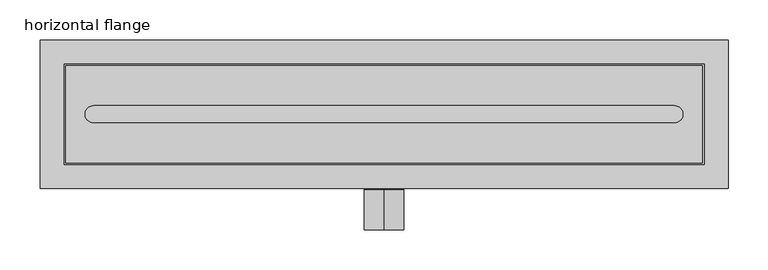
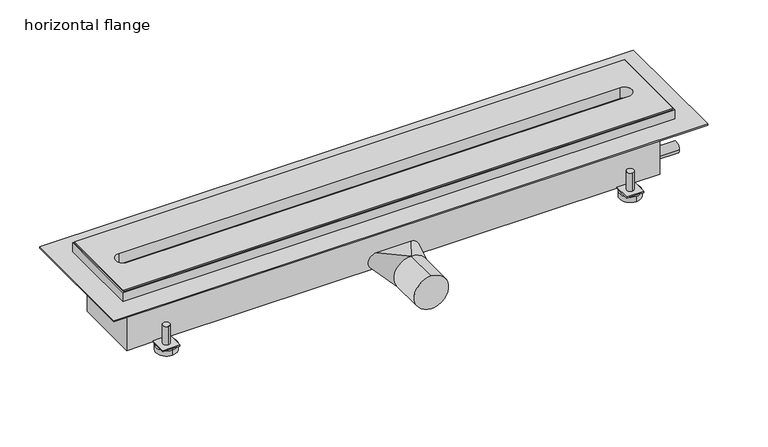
"""IFC4 building model written with IfcOpenShell, lengths in millimetres: sanitary terminal geometry, PF_UN_ShowerDrain X_ACO : horizontal flange."""

from ifc_helpers import new_model, si_unit, point, frame, frame_2d, origin, origin_with_axes, place, context, project, spatial, polyline, circle_curve, trimmed, segment, composite_curve, outline, extrude, faceted_brep, source, transform, mapped, element, save
from ifc_brep_helpers import plane_surface, cylinder_surface, spline_surface, advanced_brep


def horizontal_flange_fb927bfa(model_context):
    return source(origin(), model_context, "Body", "SolidModel", [
        advanced_brep(
        [(-336.0, 67.0, -56.0), (-336.0, 57.0, -56.0), (-336.0, 77.0, -94.0), (-336.0, 47.0, -94.0), (-336.0, 67.0, -86.0), (-336.0, 57.0, -86.0), (-336.0, 77.0, -86.0), (-336.0, 47.0, -86.0)],
        [
            (0, 1, circle_curve(frame((-336.0, 62.0, -56.0), z_axis=(0.0, 0.0, 1.0), x_axis=(0.0, -1.0, 0.0)), 5.0)),
            (1, 0, circle_curve(frame((-336.0, 62.0, -56.0), z_axis=(0.0, 0.0, 1.0), x_axis=(0.0, -1.0, 0.0)), 5.0)),
            (2, 3, circle_curve(frame((-336.0, 62.0, -94.0), z_axis=(0.0, 0.0, -1.0), x_axis=(0.0, -1.0, 0.0)), 15.0)),
            (3, 2, circle_curve(frame((-336.0, 62.0, -94.0), z_axis=(0.0, 0.0, -1.0), x_axis=(0.0, -1.0, 0.0)), 15.0)),
            (0, 4),
            (4, 5, circle_curve(frame((-336.0, 62.0, -86.0), z_axis=(0.0, 0.0, 1.0), x_axis=(0.0, -1.0, 0.0)), 5.0)),
            (5, 1),
            (5, 4, circle_curve(frame((-336.0, 62.0, -86.0), z_axis=(0.0, 0.0, 1.0), x_axis=(0.0, -1.0, 0.0)), 5.0)),
            (6, 7, circle_curve(frame((-336.0, 62.0, -86.0), z_axis=(0.0, 0.0, 1.0), x_axis=(0.0, -1.0, 0.0)), 15.0)),
            (7, 6, circle_curve(frame((-336.0, 62.0, -86.0), z_axis=(0.0, 0.0, 1.0), x_axis=(0.0, -1.0, 0.0)), 15.0)),
            (6, 2),
            (3, 7),
        ],
        [
            plane_surface(frame((-336.0, 57.0, -56.0), z_axis=(0.0, 0.0, 1.0), x_axis=(1.0, 0.0, 0.0))),
            plane_surface(frame((-336.0, 57.0, -94.0), z_axis=(0.0, 0.0, -1.0), x_axis=(-1.0, 0.0, 0.0))),
            cylinder_surface(frame((-336.0, 62.0, -94.0), z_axis=(0.0, 0.0, 1.0), x_axis=(0.0, -1.0, 0.0)), 5.0),
            plane_surface(frame((-336.0, 47.0, -86.0), z_axis=(0.0, 0.0, 1.0), x_axis=(1.0, 0.0, 0.0))),
            cylinder_surface(frame((-336.0, 62.0, -94.0), z_axis=(0.0, 0.0, 1.0), x_axis=(0.0, -1.0, 0.0)), 15.0),
        ],
        [
            (0, [[1, 2]]),
            (1, [[3, 4]]),
            (2, [[-1, 5, 6, 7]]),
            (2, [[-2, -7, 8, -5]]),
            (3, [[9, 10], [-6, -8]]),
            (4, [[-9, 11, -4, 12]]),
            (4, [[-10, -12, -3, -11]]),
        ],
    ),
        advanced_brep(
        [(-336.0, -56.5, -56.0), (-336.0, -66.5, -56.0), (-336.0, -46.5, -94.0), (-336.0, -76.5, -94.0), (-336.0, -56.5, -86.0), (-336.0, -66.5, -86.0), (-336.0, -46.5, -86.0), (-336.0, -76.5, -86.0)],
        [
            (0, 1, circle_curve(frame((-336.0, -61.5, -56.0), z_axis=(0.0, 0.0, 1.0), x_axis=(0.0, -1.0, 0.0)), 5.0)),
            (1, 0, circle_curve(frame((-336.0, -61.5, -56.0), z_axis=(0.0, 0.0, 1.0), x_axis=(0.0, -1.0, 0.0)), 5.0)),
            (2, 3, circle_curve(frame((-336.0, -61.5, -94.0), z_axis=(0.0, 0.0, -1.0), x_axis=(0.0, -1.0, 0.0)), 15.0)),
            (3, 2, circle_curve(frame((-336.0, -61.5, -94.0), z_axis=(0.0, 0.0, -1.0), x_axis=(0.0, -1.0, 0.0)), 15.0)),
            (0, 4),
            (4, 5, circle_curve(frame((-336.0, -61.5, -86.0), z_axis=(0.0, 0.0, 1.0), x_axis=(0.0, -1.0, 0.0)), 5.0)),
            (5, 1),
            (5, 4, circle_curve(frame((-336.0, -61.5, -86.0), z_axis=(0.0, 0.0, 1.0), x_axis=(0.0, -1.0, 0.0)), 5.0)),
            (6, 7, circle_curve(frame((-336.0, -61.5, -86.0), z_axis=(0.0, 0.0, 1.0), x_axis=(0.0, -1.0, 0.0)), 15.0)),
            (7, 6, circle_curve(frame((-336.0, -61.5, -86.0), z_axis=(0.0, 0.0, 1.0), x_axis=(0.0, -1.0, 0.0)), 15.0)),
            (6, 2),
            (3, 7),
        ],
        [
            plane_surface(frame((-336.0, 57.0, -56.0), z_axis=(0.0, 0.0, 1.0), x_axis=(1.0, 0.0, 0.0))),
            plane_surface(frame((-336.0, 57.0, -94.0), z_axis=(0.0, 0.0, -1.0), x_axis=(-1.0, 0.0, 0.0))),
            cylinder_surface(frame((-336.0, -61.5, -94.0), z_axis=(0.0, 0.0, 1.0), x_axis=(0.0, -1.0, 0.0)), 5.0),
            plane_surface(frame((-336.0, 47.0, -86.0), z_axis=(0.0, 0.0, 1.0), x_axis=(1.0, 0.0, 0.0))),
            cylinder_surface(frame((-336.0, -61.5, -94.0), z_axis=(0.0, 0.0, 1.0), x_axis=(0.0, -1.0, 0.0)), 15.0),
        ],
        [
            (0, [[1, 2]]),
            (1, [[3, 4]]),
            (2, [[-1, 5, 6, 7]]),
            (2, [[-2, -7, 8, -5]]),
            (3, [[9, 10], [-6, -8]]),
            (4, [[-9, 11, -4, 12]]),
            (4, [[-10, -12, -3, -11]]),
        ],
    ),
        advanced_brep(
        [(336.0, 67.0, -56.0), (336.0, 57.0, -56.0), (336.0, 77.0, -94.0), (336.0, 47.0, -94.0), (336.0, 67.0, -86.0), (336.0, 57.0, -86.0), (336.0, 77.0, -86.0), (336.0, 47.0, -86.0)],
        [
            (0, 1, circle_curve(frame((336.0, 62.0, -56.0), z_axis=(0.0, 0.0, 1.0), x_axis=(0.0, -1.0, 0.0)), 5.0)),
            (1, 0, circle_curve(frame((336.0, 62.0, -56.0), z_axis=(0.0, 0.0, 1.0), x_axis=(0.0, -1.0, 0.0)), 5.0)),
            (2, 3, circle_curve(frame((336.0, 62.0, -94.0), z_axis=(0.0, 0.0, -1.0), x_axis=(0.0, -1.0, 0.0)), 15.0)),
            (3, 2, circle_curve(frame((336.0, 62.0, -94.0), z_axis=(0.0, 0.0, -1.0), x_axis=(0.0, -1.0, 0.0)), 15.0)),
            (0, 4),
            (4, 5, circle_curve(frame((336.0, 62.0, -86.0), z_axis=(0.0, 0.0, 1.0), x_axis=(0.0, -1.0, 0.0)), 5.0)),
            (5, 1),
            (5, 4, circle_curve(frame((336.0, 62.0, -86.0), z_axis=(0.0, 0.0, 1.0), x_axis=(0.0, -1.0, 0.0)), 5.0)),
            (6, 7, circle_curve(frame((336.0, 62.0, -86.0), z_axis=(0.0, 0.0, 1.0), x_axis=(0.0, -1.0, 0.0)), 15.0)),
            (7, 6, circle_curve(frame((336.0, 62.0, -86.0), z_axis=(0.0, 0.0, 1.0), x_axis=(0.0, -1.0, 0.0)), 15.0)),
            (6, 2),
            (3, 7),
        ],
        [
            plane_surface(frame((-336.0, 57.0, -56.0), z_axis=(0.0, 0.0, 1.0), x_axis=(1.0, 0.0, 0.0))),
            plane_surface(frame((-336.0, 57.0, -94.0), z_axis=(0.0, 0.0, -1.0), x_axis=(-1.0, 0.0, 0.0))),
            cylinder_surface(frame((336.0, 62.0, -94.0), z_axis=(0.0, 0.0, 1.0), x_axis=(0.0, -1.0, 0.0)), 5.0),
            plane_surface(frame((-336.0, 47.0, -86.0), z_axis=(0.0, 0.0, 1.0), x_axis=(1.0, 0.0, 0.0))),
            cylinder_surface(frame((336.0, 62.0, -94.0), z_axis=(0.0, 0.0, 1.0), x_axis=(0.0, -1.0, 0.0)), 15.0),
        ],
        [
            (0, [[1, 2]]),
            (1, [[3, 4]]),
            (2, [[-1, 5, 6, 7]]),
            (2, [[-2, -7, 8, -5]]),
            (3, [[9, 10], [-6, -8]]),
            (4, [[-9, 11, -4, 12]]),
            (4, [[-10, -12, -3, -11]]),
        ],
    ),
        advanced_brep(
        [(336.0, -56.5, -56.0), (336.0, -66.5, -56.0), (336.0, -46.5, -94.0), (336.0, -76.5, -94.0), (336.0, -56.5, -86.0), (336.0, -66.5, -86.0), (336.0, -46.5, -86.0), (336.0, -76.5, -86.0)],
        [
            (0, 1, circle_curve(frame((336.0, -61.5, -56.0), z_axis=(0.0, 0.0, 1.0), x_axis=(0.0, -1.0, 0.0)), 5.0)),
            (1, 0, circle_curve(frame((336.0, -61.5, -56.0), z_axis=(0.0, 0.0, 1.0), x_axis=(0.0, -1.0, 0.0)), 5.0)),
            (2, 3, circle_curve(frame((336.0, -61.5, -94.0), z_axis=(0.0, 0.0, -1.0), x_axis=(0.0, -1.0, 0.0)), 15.0)),
            (3, 2, circle_curve(frame((336.0, -61.5, -94.0), z_axis=(0.0, 0.0, -1.0), x_axis=(0.0, -1.0, 0.0)), 15.0)),
            (0, 4),
            (4, 5, circle_curve(frame((336.0, -61.5, -86.0), z_axis=(0.0, 0.0, 1.0), x_axis=(0.0, -1.0, 0.0)), 5.0)),
            (5, 1),
            (5, 4, circle_curve(frame((336.0, -61.5, -86.0), z_axis=(0.0, 0.0, 1.0), x_axis=(0.0, -1.0, 0.0)), 5.0)),
            (6, 7, circle_curve(frame((336.0, -61.5, -86.0), z_axis=(0.0, 0.0, 1.0), x_axis=(0.0, -1.0, 0.0)), 15.0)),
            (7, 6, circle_curve(frame((336.0, -61.5, -86.0), z_axis=(0.0, 0.0, 1.0), x_axis=(0.0, -1.0, 0.0)), 15.0)),
            (6, 2),
            (3, 7),
        ],
        [
            plane_surface(frame((-336.0, 57.0, -56.0), z_axis=(0.0, 0.0, 1.0), x_axis=(1.0, 0.0, 0.0))),
            plane_surface(frame((-336.0, 57.0, -94.0), z_axis=(0.0, 0.0, -1.0), x_axis=(-1.0, 0.0, 0.0))),
            cylinder_surface(frame((336.0, -61.5, -94.0), z_axis=(0.0, 0.0, 1.0), x_axis=(0.0, -1.0, 0.0)), 5.0),
            plane_surface(frame((-336.0, 47.0, -86.0), z_axis=(0.0, 0.0, 1.0), x_axis=(1.0, 0.0, 0.0))),
            cylinder_surface(frame((336.0, -61.5, -94.0), z_axis=(0.0, 0.0, 1.0), x_axis=(0.0, -1.0, 0.0)), 15.0),
        ],
        [
            (0, [[1, 2]]),
            (1, [[3, 4]]),
            (2, [[-1, 5, 6, 7]]),
            (2, [[-2, -7, 8, -5]]),
            (3, [[9, 10], [-6, -8]]),
            (4, [[-9, 11, -4, 12]]),
            (4, [[-10, -12, -3, -11]]),
        ],
    ),
        advanced_brep(
        [(386.0, 50.0, -86.0), (386.0, -49.0, -86.0), (348.5, -49.0, -86.0), (348.5, -74.0, -86.0), (323.5, -74.0, -86.0), (323.5, -49.0, -86.0), (-323.5, -49.0, -86.0), (-323.5, -74.0, -86.0), (-348.5, -74.0, -86.0), (-348.5, -49.0, -86.0), (-386.0, -49.0, -86.0), (-386.0, 50.0, -86.0), (-348.5, 50.0, -86.0), (-348.5, 74.0, -86.0), (-323.5, 74.0, -86.0), (-323.5, 50.0, -86.0), (323.5, 50.0, -86.0), (323.5, 74.0, -86.0), (348.5, 74.0, -86.0), (348.5, 50.0, -86.0), (386.0, 50.0, -8.0), (-386.0, 50.0, -8.0), (-386.0, -49.0, -8.0), (386.0, -49.0, -8.0), (348.5, 50.0, -84.0), (323.5, 50.0, -84.0), (-323.5, 50.0, -84.0), (-348.5, 50.0, -84.0), (-348.5, -49.0, -84.0), (-323.5, -49.0, -84.0), (323.5, -49.0, -84.0), (348.5, -49.0, -84.0), (386.0, -37.85, -68.0), (386.0, -22.15, -68.0), (386.0, 24.15, -32.0), (386.0, 39.85, -32.0), (421.0, -37.85, -68.0), (421.0, -22.15, -68.0), (421.0, 24.15, -32.0), (421.0, 39.85, -32.0), (-323.5, 74.0, -84.0), (-348.5, 74.0, -84.0), (348.5, 74.0, -84.0), (323.5, 74.0, -84.0), (348.5, -74.0, -84.0), (323.5, -74.0, -84.0), (-348.5, -74.0, -84.0), (-323.5, -74.0, -84.0)],
        [
            (0, 1),
            (1, 2),
            (2, 3),
            (3, 4),
            (4, 5),
            (5, 6),
            (6, 7),
            (7, 8),
            (8, 9),
            (9, 10),
            (10, 11),
            (11, 12),
            (12, 13),
            (13, 14),
            (14, 15),
            (15, 16),
            (16, 17),
            (17, 18),
            (18, 19),
            (19, 0),
            (20, 21),
            (21, 22),
            (22, 23),
            (23, 20),
            (20, 0),
            (19, 24),
            (24, 25),
            (25, 16),
            (15, 26),
            (26, 27),
            (27, 12),
            (11, 21),
            (10, 22),
            (9, 28),
            (28, 29),
            (29, 6),
            (5, 30),
            (30, 31),
            (31, 2),
            (1, 23),
            (32, 33, circle_curve(frame((386.0, -30.0, -68.0), z_axis=(-1.0, 0.0, 0.0), x_axis=(0.0, 1.0, 0.0)), 7.85)),
            (33, 32, circle_curve(frame((386.0, -30.0, -68.0), z_axis=(-1.0, 0.0, 0.0), x_axis=(0.0, 1.0, 0.0)), 7.85)),
            (34, 35, circle_curve(frame((386.0, 32.0, -32.0), z_axis=(-1.0, 0.0, 0.0), x_axis=(0.0, 1.0, 0.0)), 7.85)),
            (35, 34, circle_curve(frame((386.0, 32.0, -32.0), z_axis=(-1.0, 0.0, 0.0), x_axis=(0.0, 1.0, 0.0)), 7.85)),
            (36, 37, circle_curve(frame((421.0, -30.0, -68.0), z_axis=(1.0, 0.0, 0.0), x_axis=(0.0, 1.0, 0.0)), 7.85)),
            (37, 36, circle_curve(frame((421.0, -30.0, -68.0), z_axis=(1.0, 0.0, 0.0), x_axis=(0.0, 1.0, 0.0)), 7.85)),
            (37, 33),
            (32, 36),
            (38, 39, circle_curve(frame((421.0, 32.0, -32.0), z_axis=(1.0, 0.0, 0.0), x_axis=(0.0, 1.0, 0.0)), 7.85)),
            (39, 38, circle_curve(frame((421.0, 32.0, -32.0), z_axis=(1.0, 0.0, 0.0), x_axis=(0.0, 1.0, 0.0)), 7.85)),
            (39, 35),
            (34, 38),
            (40, 41),
            (41, 27),
            (26, 40),
            (42, 43),
            (43, 25),
            (24, 42),
            (44, 31),
            (30, 45),
            (45, 44),
            (46, 47),
            (47, 29),
            (28, 46),
            (40, 14),
            (13, 41),
            (42, 18),
            (17, 43),
            (44, 3),
            (4, 45),
            (46, 8),
            (7, 47),
        ],
        [
            plane_surface(frame((-386.0, 50.0, -86.0), z_axis=(0.0, 0.0, -1.0), x_axis=(1.0, 0.0, 0.0))),
            plane_surface(frame((-386.0, 50.0, -8.0), z_axis=(0.0, 0.0, 1.0), x_axis=(-1.0, 0.0, 0.0))),
            plane_surface(frame((386.0, 50.0, -8.0), z_axis=(0.0, 1.0, 0.0), x_axis=(0.0, 0.0, -1.0))),
            plane_surface(frame((-386.0, 50.0, -8.0), z_axis=(-1.0, 0.0, 0.0), x_axis=(0.0, 0.0, -1.0))),
            plane_surface(frame((-386.0, -49.0, -8.0), z_axis=(0.0, -1.0, 0.0), x_axis=(0.0, 0.0, -1.0))),
            plane_surface(frame((386.0, -49.0, -8.0), z_axis=(1.0, 0.0, 0.0), x_axis=(0.0, 0.0, -1.0))),
            plane_surface(frame((421.0, -30.0, -68.0), z_axis=(1.0, 0.0, 0.0), x_axis=(0.0, 0.0, 1.0))),
            cylinder_surface(frame((0.0, -30.0, -68.0), z_axis=(-1.0, 0.0, 0.0), x_axis=(0.0, 1.0, 0.0)), 7.85),
            plane_surface(frame((421.0, 32.0, -32.0), z_axis=(1.0, 0.0, 0.0), x_axis=(0.0, 0.0, 1.0))),
            cylinder_surface(frame((0.0, 32.0, -32.0), z_axis=(-1.0, 0.0, 0.0), x_axis=(0.0, 1.0, 0.0)), 7.85),
            plane_surface(frame((-348.5, 74.0, -84.0), z_axis=(0.0, 0.0, 1.0), x_axis=(-1.0, 0.0, 0.0))),
            plane_surface(frame((-323.5, 74.0, -84.0), z_axis=(0.0, 1.0, 0.0), x_axis=(0.0, 0.0, -1.0))),
            plane_surface(frame((-348.5, 74.0, -84.0), z_axis=(-1.0, 0.0, 0.0), x_axis=(0.0, 0.0, -1.0))),
            plane_surface(frame((-323.5, 50.0, -84.0), z_axis=(1.0, 0.0, 0.0), x_axis=(0.0, 0.0, -1.0))),
            plane_surface(frame((348.5, 74.0, -84.0), z_axis=(0.0, 1.0, 0.0), x_axis=(0.0, 0.0, -1.0))),
            plane_surface(frame((323.5, 74.0, -84.0), z_axis=(-1.0, 0.0, 0.0), x_axis=(0.0, 0.0, -1.0))),
            plane_surface(frame((348.5, 50.0, -84.0), z_axis=(1.0, 0.0, 0.0), x_axis=(0.0, 0.0, -1.0))),
            plane_surface(frame((348.5, -74.0, -84.0), z_axis=(1.0, 0.0, 0.0), x_axis=(0.0, 0.0, -1.0))),
            plane_surface(frame((323.5, -49.0, -84.0), z_axis=(-1.0, 0.0, 0.0), x_axis=(0.0, 0.0, -1.0))),
            plane_surface(frame((323.5, -74.0, -84.0), z_axis=(0.0, -1.0, 0.0), x_axis=(0.0, 0.0, -1.0))),
            plane_surface(frame((-348.5, -74.0, -84.0), z_axis=(0.0, -1.0, 0.0), x_axis=(0.0, 0.0, -1.0))),
            plane_surface(frame((-323.5, -74.0, -84.0), z_axis=(1.0, 0.0, 0.0), x_axis=(0.0, 0.0, -1.0))),
            plane_surface(frame((-348.5, -49.0, -84.0), z_axis=(-1.0, 0.0, 0.0), x_axis=(0.0, 0.0, -1.0))),
        ],
        [
            (0, [[1, 2, 3, 4, 5, 6, 7, 8, 9, 10, 11, 12, 13, 14, 15, 16, 17, 18, 19, 20]]),
            (1, [[21, 22, 23, 24]]),
            (2, [[-21, 25, -20, 26, 27, 28, -16, 29, 30, 31, -12, 32]]),
            (3, [[-11, 33, -22, -32]]),
            (4, [[-23, -33, -10, 34, 35, 36, -6, 37, 38, 39, -2, 40]]),
            (5, [[-1, -25, -24, -40], [41, 42], [43, 44]]),
            (6, [[45, 46]]),
            (7, [[-46, 47, -41, 48]]),
            (7, [[-45, -48, -42, -47]]),
            (8, [[49, 50]]),
            (9, [[-50, 51, -43, 52]]),
            (9, [[-49, -52, -44, -51]]),
            (10, [[53, 54, -30, 55]]),
            (10, [[56, 57, -27, 58]]),
            (10, [[59, -38, 60, 61]]),
            (10, [[62, 63, -35, 64]]),
            (11, [[-53, 65, -14, 66]]),
            (12, [[-54, -66, -13, -31]]),
            (13, [[-55, -29, -15, -65]]),
            (14, [[-56, 67, -18, 68]]),
            (15, [[-57, -68, -17, -28]]),
            (16, [[-58, -26, -19, -67]]),
            (17, [[-59, 69, -3, -39]]),
            (18, [[-60, -37, -5, 70]]),
            (19, [[-61, -70, -4, -69]]),
            (20, [[-62, 71, -8, 72]]),
            (21, [[-63, -72, -7, -36]]),
            (22, [[-64, -34, -9, -71]]),
        ],
    ),
        extrude(outline(polyline([(398.0, 61.0), (398.0, -61.0), (-398.0, -61.0), (-398.0, 61.0), (398.0, 61.0)]), holes=[composite_curve([segment(polyline([(363.0860312, 10.6770786), (-363.0900069, 10.6770786)]), True, "CONTINUOUS"), segment(trimmed(circle_curve(frame_2d((-363.0900069, 0.0)), 10.6770786), [point((-363.0900069, 10.6770786))], [point((-363.0900069, -10.6770786))], True, "CARTESIAN"), True, "CONTINUOUS"), segment(polyline([(-363.0900069, -10.6770786), (363.0860312, -10.6770786)]), True, "CONTINUOUS"), segment(trimmed(circle_curve(frame_2d((363.0860312, 0.0)), 10.6770786), [point((363.0860312, -10.6770786))], [point((363.0860312, 10.6770786))], True, "CARTESIAN"), True, "CONTINUOUS")], self_intersect=False)]), origin_with_axes(), (0.0, 0.0, 1.0), 18.0),
        advanced_brep(
        [(0.0, -144.5, -99.0), (0.0, -144.5, -49.0), (0.0, -94.5, -99.0), (13.0, -94.5, -95.3541565), (13.0005627, -94.5, -52.6461861), (0.0, -94.5, -49.0), (-13.0, -94.5, -52.6458435), (-13.0, -94.5, -95.3541565), (25.0, -50.0, -86.0), (-25.0, -50.0, -86.0), (-25.0, -50.0, -62.0), (25.0, -50.0, -62.0)],
        [
            (0, 1, circle_curve(frame((0.0, -144.5, -74.0), z_axis=(0.0, -1.0, 0.0), x_axis=(0.0, 0.0, 1.0)), 25.0)),
            (1, 0, circle_curve(frame((0.0, -144.5, -74.0), z_axis=(0.0, -1.0, 0.0), x_axis=(0.0, 0.0, 1.0)), 25.0)),
            (0, 2),
            (2, 3, circle_curve(frame((0.0, -94.5, -74.0), z_axis=(0.0, -1.0, 0.0), x_axis=(0.0, 0.0, 1.0)), 25.0)),
            (3, 4, circle_curve(frame((0.0, -94.5, -74.0), z_axis=(0.0, -1.0, 0.0), x_axis=(0.0, 0.0, 1.0)), 25.0)),
            (4, 5, circle_curve(frame((0.0, -94.5, -74.0), z_axis=(0.0, -1.0, 0.0), x_axis=(0.0, 0.0, 1.0)), 25.0)),
            (5, 1),
            (5, 6, circle_curve(frame((0.0, -94.5, -74.0), z_axis=(0.0, -1.0, 0.0), x_axis=(0.0, 0.0, 1.0)), 25.0)),
            (6, 7, circle_curve(frame((0.0, -94.5, -74.0), z_axis=(0.0, -1.0, 0.0), x_axis=(0.0, 0.0, 1.0)), 25.0)),
            (7, 2, circle_curve(frame((0.0, -94.5, -74.0), z_axis=(0.0, -1.0, 0.0), x_axis=(0.0, 0.0, 1.0)), 25.0)),
            (8, 9),
            (9, 10, circle_curve(frame((-25.0, -50.0, -74.0), z_axis=(0.0, 1.0, 0.0), x_axis=(0.0, 0.0, 1.0)), 12.0)),
            (10, 11),
            (11, 8, circle_curve(frame((25.0, -50.0, -74.0), z_axis=(0.0, 1.0, 0.0), x_axis=(0.0, 0.0, 1.0)), 12.0)),
            (8, 2),
            (2, 9),
            (5, 10),
            (5, 11),
        ],
        [
            plane_surface(frame((0.0, -144.5, -74.0), z_axis=(0.0, -1.0, 0.0), x_axis=(1.0, 0.0, 0.0))),
            cylinder_surface(frame((0.0, -144.5, -74.0), z_axis=(0.0, -1.0, 0.0), x_axis=(0.0, 0.0, 1.0)), 25.0),
            plane_surface(frame((0.0, -50.0, -74.0), z_axis=(0.0, 1.0, 0.0), x_axis=(-1.0, 0.0, 0.0))),
            plane_surface(frame((0.0, -94.5, -99.0), z_axis=(0.0, 0.2804141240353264, -0.9598791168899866), x_axis=(-1.0, 0.0, 0.0))),
            spline_surface(2, 1, [[(0.0, -94.5, -99.0), (-25.0, -50.0, -86.0)], [(-25.0, -94.5, -99.0), (-37.0, -50.0, -86.0)], [(-25.0, -94.5, -74.0), (-37.0, -50.0, -74.0)], [(-25.0, -94.5, -49.0), (-37.0, -50.0, -62.0)], [(0.0, -94.5, -49.0), (-25.0, -50.0, -62.0)]], [3, 2, 3], [2, 2], [0.0, 1.0, 2.0], [0.0, 1.0], weights=[[1.0, 1.0], [0.7071067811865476, 0.7071067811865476], [1.0, 1.0], [0.7071067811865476, 0.7071067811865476], [1.0, 1.0]]),
            plane_surface(frame((0.0, -94.5, -49.0), z_axis=(0.0, 0.2804141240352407, 0.9598791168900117), x_axis=(1.0, 0.0, 0.0))),
            spline_surface(2, 1, [[(0.0, -94.5, -49.0), (25.0, -50.0, -62.0)], [(25.0, -94.5, -49.0), (37.0, -50.0, -62.0)], [(25.0, -94.5, -74.0), (37.0, -50.0, -74.0)], [(25.0, -94.5, -99.0), (37.0, -50.0, -86.0)], [(0.0, -94.5, -99.0), (25.0, -50.0, -86.0)]], [3, 2, 3], [2, 2], [0.0, 1.0, 2.0], [0.0, 1.0], weights=[[1.0, 1.0], [0.7071067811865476, 0.7071067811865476], [1.0, 1.0], [0.7071067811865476, 0.7071067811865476], [1.0, 1.0]]),
        ],
        [
            (0, [[1, 2]]),
            (1, [[-1, 3, 4, 5, 6, 7]]),
            (1, [[-2, -7, 8, 9, 10, -3]]),
            (2, [[11, 12, 13, 14]]),
            (3, [[-11, 15, 16]]),
            (4, [[-12, -16, -10, -9, -8, 17]]),
            (5, [[-13, -17, 18]]),
            (6, [[-14, -18, -6, -5, -4, -15]]),
        ],
    ),
        extrude(outline(polyline([(430.0, 93.0), (430.0, -93.0), (-430.0, -93.0), (-430.0, 93.0), (430.0, 93.0)])), origin_with_axes(), (0.0, 0.0, 1.0), 2.0),
        faceted_brep([(400.0, 63.0, 16.0), (-400.0, 63.0, 16.0), (-400.0, -63.0, 16.0), (400.0, -63.0, 16.0), (-398.0, 61.0, 16.0), (398.0, 61.0, 16.0), (398.0, -61.0, 16.0), (-398.0, -61.0, 16.0), (400.0, 63.0, -8.0), (400.0, -63.0, -8.0), (-400.0, -63.0, -8.0), (-400.0, 63.0, -8.0), (398.0, 61.0, -6.0), (-398.0, 61.0, -6.0), (-398.0, -61.0, -6.0), (398.0, -61.0, -6.0)], [[[0, 1, 2, 3], [4, 5, 6, 7]], [[8, 9, 10, 11]], [[1, 0, 8, 11]], [[2, 1, 11, 10]], [[3, 2, 10, 9]], [[0, 3, 9, 8]], [[12, 13, 14, 15]], [[13, 12, 5, 4]], [[14, 13, 4, 7]], [[15, 14, 7, 6]], [[12, 15, 6, 5]]]),
    ])


if __name__ == "__main__":
    model = new_model("IFC4")
    model_context = context("Model", 3, world=origin())
    ifc_project = project(units=[si_unit("LENGTHUNIT", "METRE", prefix="MILLI")], contexts=[model_context])
    site = spatial("IfcSite", under=ifc_project)
    building = spatial("IfcBuilding", under=site)
    placement = place(None, origin())
    horizontal_flange_shape = horizontal_flange_fb927bfa(model_context)
    element("IfcSanitaryTerminal", 1, ObjectType="PF_UN_ShowerDrain X_ACO : horizontal flange", at=placement, inside=building, context=model_context, shape_type="MappedRepresentation", body=[
        mapped(horizontal_flange_shape, transform((0.0, 0.0, 0.0), x_axis=(1.0, 0.0, 0.0), y_axis=(0.0, 1.0, 0.0), z_axis=(0.0, 0.0, 1.0))),
    ])
    save(model, "model.ifc")
